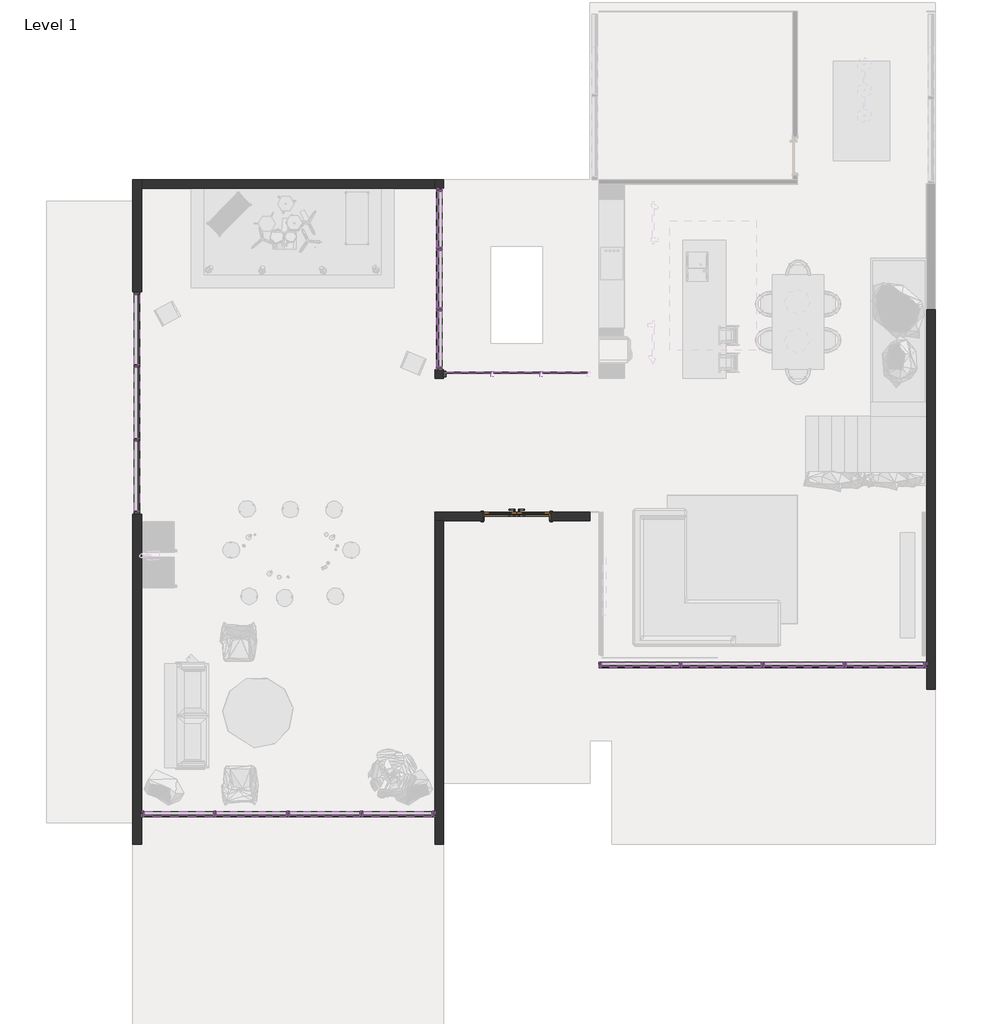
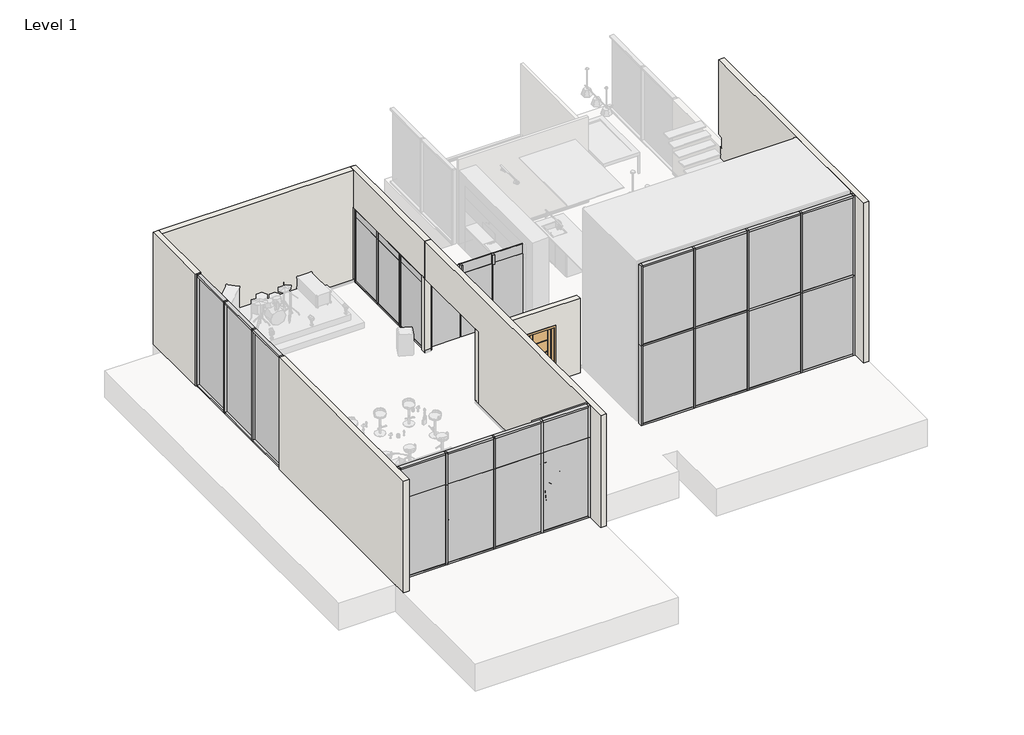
# One storey, part 1 of 6: 67 members, 31 plates, 7 walls, 1 door.
"""IFC4 building model written with IfcOpenShell, lengths in millimetres."""

from ifc_helpers import new_model, si_unit, origin, place, context, project, spatial, faceted_brep, transform, mapped, element, save
from components import door_fa4e7676, rectangular_mullion_rectangular_mullion_1_546e9a78, rectangular_mullion_rectangular_mullion_1_51fb7a7d, rectangular_mullion_rectangular_mullion_1_f7e226ab, rectangular_mullion_rectangular_mullion_1_45eb5bec, rectangular_mullion_rectangular_mullion_1_e13054cf, rectangular_mullion_rectangular_mullion_1_86471573, rectangular_mullion_rectangular_mullion_1_f0fea5a5, rectangular_mullion_rectangular_mullion_1_031d7db2, rectangular_mullion_rectangular_mullion_1_ee409385, rectangular_mullion_rectangular_mullion_1_a164bd95, rectangular_mullion_rectangular_mullion_1_19b272d7, rectangular_mullion_rectangular_mullion_1_7ddebdeb, rectangular_mullion_rectangular_mullion_1_c42b9823, rectangular_mullion_rectangular_mullion_1_b50b5572, rectangular_mullion_rectangular_mullion_1_a9c130e0, rectangular_mullion_rectangular_mullion_1_33fd05ac, rectangular_mullion_rectangular_mullion_1_9cceb9fc, rectangular_mullion_rectangular_mullion_1_63176f19, rectangular_mullion_rectangular_mullion_1_3b2aa3a4, rectangular_mullion_rectangular_mullion_1_f5ac44b7, system_panel_glazed_e4671943, system_panel_glazed_a1a4891f, system_panel_glazed_fd55c559, system_panel_glazed_ea0f2242, system_panel_glazed_6720194d, system_panel_glazed_d0ac25b7, system_panel_glazed_ef327d5a, system_panel_glazed_08af4b28, system_panel_glazed_5775386d, system_panel_glazed_53e30309, system_panel_glazed_298910d5, system_panel_glazed_575d64dd, system_panel_glazed_6db0c983, system_panel_glazed_e00e6230, system_panel_glazed_abf0406e, system_panel_glazed_4120c17d

model = new_model("IFC4")

# Units and contexts
model_context = context("Model", 3, world=origin())
ifc_project = project(units=[si_unit("LENGTHUNIT", "METRE", prefix="MILLI")], contexts=[model_context])

# Site, building, storey
site = spatial("IfcSite", under=ifc_project)
building = spatial("IfcBuilding", under=site)
storey = spatial("IfcBuildingStorey", under=building, Name="Level 1", Elevation=1000.0)

# Door
placement = place(None, origin())
door_shape = door_fa4e7676(model_context)
element("IfcDoor", 1, ObjectType="Door-Exterior-Double-Full Glass-Wood_Clad : 60\" x 80\"", at=placement, inside=storey, context=model_context, shape_type="MappedRepresentation", body=[
    mapped(door_shape, transform((15043.1337784, 5370.0956658, 1000.0), x_axis=(1.0, 0.0, 0.0), y_axis=(0.0, 1.0, 0.0), z_axis=(0.0, 0.0, 1.0))),
])

# Members
rectangular_mullion_rectangular_mullion_1_shape = rectangular_mullion_rectangular_mullion_1_546e9a78(model_context)
element("IfcMember", 2, ObjectType="Rectangular Mullion : Rectangular Mullion 1", at=placement, inside=storey, context=model_context, shape_type="MappedRepresentation", body=[
    mapped(rectangular_mullion_rectangular_mullion_1_shape, transform((18874.8837785, 1927.8321125, 7000.0), x_axis=(0.0, 0.0, 1.0), y_axis=(0.0, 1.0, 0.0), z_axis=(-1.0, 0.0, 0.0))),
])
element("IfcMember", 3, ObjectType="Rectangular Mullion : Rectangular Mullion 1", at=placement, inside=storey, context=model_context, shape_type="MappedRepresentation", body=[
    mapped(rectangular_mullion_rectangular_mullion_1_shape, transform((20774.8837784, 1927.8321125, 7000.0), x_axis=(0.0, 0.0, 1.0), y_axis=(0.0, 1.0, 0.0), z_axis=(-1.0, 0.0, 0.0))),
])
rectangular_mullion_rectangular_mullion_1_2_shape = rectangular_mullion_rectangular_mullion_1_51fb7a7d(model_context)
element("IfcMember", 4, ObjectType="Rectangular Mullion : Rectangular Mullion 1", at=placement, inside=storey, context=model_context, shape_type="MappedRepresentation", body=[
    mapped(rectangular_mullion_rectangular_mullion_1_2_shape, transform((22674.8837782, 1927.8321125, 7000.0), x_axis=(0.0, 0.0, 1.0), y_axis=(0.0, 1.0, 0.0), z_axis=(-1.0, 0.0, 0.0))),
])
element("IfcMember", 5, ObjectType="Rectangular Mullion : Rectangular Mullion 1", at=placement, inside=storey, context=model_context, shape_type="MappedRepresentation", body=[
    mapped(rectangular_mullion_rectangular_mullion_1_2_shape, transform((17006.6337784, 1927.8321125, 7000.0), x_axis=(0.0, 0.0, 1.0), y_axis=(0.0, 1.0, 0.0), z_axis=(-1.0, 0.0, 0.0))),
])
rectangular_mullion_rectangular_mullion_1_3_shape = rectangular_mullion_rectangular_mullion_1_f7e226ab(model_context)
element("IfcMember", 6, ObjectType="Rectangular Mullion : Rectangular Mullion 1", at=placement, inside=storey, context=model_context, shape_type="MappedRepresentation", body=[
    mapped(rectangular_mullion_rectangular_mullion_1_3_shape, transform((18843.1337785, 1927.8321125, 4000.0), x_axis=(-1.0, 0.0, 0.0), y_axis=(0.0, 1.0, 0.0), z_axis=(0.0, 0.0, -1.0))),
])
element("IfcMember", 7, ObjectType="Rectangular Mullion : Rectangular Mullion 1", at=placement, inside=storey, context=model_context, shape_type="MappedRepresentation", body=[
    mapped(rectangular_mullion_rectangular_mullion_1_3_shape, transform((20743.1337784, 1927.8321125, 4000.0), x_axis=(-1.0, 0.0, 0.0), y_axis=(0.0, 1.0, 0.0), z_axis=(0.0, 0.0, -1.0))),
])
element("IfcMember", 8, ObjectType="Rectangular Mullion : Rectangular Mullion 1", at=placement, inside=storey, context=model_context, shape_type="MappedRepresentation", body=[
    mapped(rectangular_mullion_rectangular_mullion_1_3_shape, transform((22643.1337782, 1927.8321125, 4000.0), x_axis=(-1.0, 0.0, 0.0), y_axis=(0.0, 1.0, 0.0), z_axis=(0.0, 0.0, -1.0))),
])
rectangular_mullion_rectangular_mullion_1_4_shape = rectangular_mullion_rectangular_mullion_1_45eb5bec(model_context)
element("IfcMember", 9, ObjectType="Rectangular Mullion : Rectangular Mullion 1", at=placement, inside=storey, context=model_context, shape_type="MappedRepresentation", body=[
    mapped(rectangular_mullion_rectangular_mullion_1_4_shape, transform((17006.6337784, 1927.8321125, 4000.0), x_axis=(0.0, 0.0, 1.0), y_axis=(0.0, 1.0, 0.0), z_axis=(-1.0, 0.0, 0.0))),
])
element("IfcMember", 10, ObjectType="Rectangular Mullion : Rectangular Mullion 1", at=placement, inside=storey, context=model_context, shape_type="MappedRepresentation", body=[
    mapped(rectangular_mullion_rectangular_mullion_1_4_shape, transform((22674.8837782, 1927.8321125, 4000.0), x_axis=(0.0, 0.0, 1.0), y_axis=(0.0, 1.0, 0.0), z_axis=(-1.0, 0.0, 0.0))),
])
rectangular_mullion_rectangular_mullion_1_5_shape = rectangular_mullion_rectangular_mullion_1_e13054cf(model_context)
element("IfcMember", 11, ObjectType="Rectangular Mullion : Rectangular Mullion 1", at=placement, inside=storey, context=model_context, shape_type="MappedRepresentation", body=[
    mapped(rectangular_mullion_rectangular_mullion_1_5_shape, transform((18874.8837785, 1927.8321125, 4000.0), x_axis=(0.0, 0.0, 1.0), y_axis=(0.0, 1.0, 0.0), z_axis=(-1.0, 0.0, 0.0))),
])
element("IfcMember", 12, ObjectType="Rectangular Mullion : Rectangular Mullion 1", at=placement, inside=storey, context=model_context, shape_type="MappedRepresentation", body=[
    mapped(rectangular_mullion_rectangular_mullion_1_5_shape, transform((20774.8837784, 1927.8321125, 4000.0), x_axis=(0.0, 0.0, 1.0), y_axis=(0.0, 1.0, 0.0), z_axis=(-1.0, 0.0, 0.0))),
])
rectangular_mullion_rectangular_mullion_1_6_shape = rectangular_mullion_rectangular_mullion_1_86471573(model_context)
element("IfcMember", 13, ObjectType="Rectangular Mullion : Rectangular Mullion 1", at=placement, inside=storey, context=model_context, shape_type="MappedRepresentation", body=[
    mapped(rectangular_mullion_rectangular_mullion_1_6_shape, transform((24543.1337784, 1927.8321125, 7000.0), x_axis=(1.0, 0.0, 0.0), y_axis=(0.0, 1.0, 0.0), z_axis=(0.0, 0.0, 1.0))),
])
element("IfcMember", 14, ObjectType="Rectangular Mullion : Rectangular Mullion 1", at=placement, inside=storey, context=model_context, shape_type="MappedRepresentation", body=[
    mapped(rectangular_mullion_rectangular_mullion_1_6_shape, transform((16943.1337784, 1927.8321125, 4000.0), x_axis=(-1.0, 0.0, 0.0), y_axis=(0.0, 1.0, 0.0), z_axis=(0.0, 0.0, -1.0))),
])
element("IfcMember", 15, ObjectType="Rectangular Mullion : Rectangular Mullion 1", at=placement, inside=storey, context=model_context, shape_type="MappedRepresentation", body=[
    mapped(rectangular_mullion_rectangular_mullion_1_3_shape, transform((18843.1337785, 1927.8321125, 1000.0), x_axis=(-1.0, 0.0, 0.0), y_axis=(0.0, 1.0, 0.0), z_axis=(0.0, 0.0, -1.0))),
])
element("IfcMember", 16, ObjectType="Rectangular Mullion : Rectangular Mullion 1", at=placement, inside=storey, context=model_context, shape_type="MappedRepresentation", body=[
    mapped(rectangular_mullion_rectangular_mullion_1_3_shape, transform((20743.1337784, 1927.8321125, 1000.0), x_axis=(-1.0, 0.0, 0.0), y_axis=(0.0, 1.0, 0.0), z_axis=(0.0, 0.0, -1.0))),
])
element("IfcMember", 17, ObjectType="Rectangular Mullion : Rectangular Mullion 1", at=placement, inside=storey, context=model_context, shape_type="MappedRepresentation", body=[
    mapped(rectangular_mullion_rectangular_mullion_1_3_shape, transform((22643.1337782, 1927.8321125, 1000.0), x_axis=(-1.0, 0.0, 0.0), y_axis=(0.0, 1.0, 0.0), z_axis=(0.0, 0.0, -1.0))),
])
element("IfcMember", 18, ObjectType="Rectangular Mullion : Rectangular Mullion 1", at=placement, inside=storey, context=model_context, shape_type="MappedRepresentation", body=[
    mapped(rectangular_mullion_rectangular_mullion_1_2_shape, transform((18811.3837785, 1927.8321125, 1000.0), x_axis=(0.0, 0.0, -1.0), y_axis=(0.0, 1.0, 0.0), z_axis=(1.0, 0.0, 0.0))),
])
element("IfcMember", 19, ObjectType="Rectangular Mullion : Rectangular Mullion 1", at=placement, inside=storey, context=model_context, shape_type="MappedRepresentation", body=[
    mapped(rectangular_mullion_rectangular_mullion_1_2_shape, transform((24479.6337784, 1927.8321125, 1000.0), x_axis=(0.0, 0.0, -1.0), y_axis=(0.0, 1.0, 0.0), z_axis=(1.0, 0.0, 0.0))),
])
element("IfcMember", 20, ObjectType="Rectangular Mullion : Rectangular Mullion 1", at=placement, inside=storey, context=model_context, shape_type="MappedRepresentation", body=[
    mapped(rectangular_mullion_rectangular_mullion_1_shape, transform((20711.3837784, 1927.8321125, 1000.0), x_axis=(0.0, 0.0, -1.0), y_axis=(0.0, 1.0, 0.0), z_axis=(1.0, 0.0, 0.0))),
])
element("IfcMember", 21, ObjectType="Rectangular Mullion : Rectangular Mullion 1", at=placement, inside=storey, context=model_context, shape_type="MappedRepresentation", body=[
    mapped(rectangular_mullion_rectangular_mullion_1_shape, transform((22611.3837782, 1927.8321125, 1000.0), x_axis=(0.0, 0.0, -1.0), y_axis=(0.0, 1.0, 0.0), z_axis=(1.0, 0.0, 0.0))),
])
element("IfcMember", 22, ObjectType="Rectangular Mullion : Rectangular Mullion 1", at=placement, inside=storey, context=model_context, shape_type="MappedRepresentation", body=[
    mapped(rectangular_mullion_rectangular_mullion_1_6_shape, transform((24543.1337784, 1927.8321125, 4000.0), x_axis=(1.0, 0.0, 0.0), y_axis=(0.0, 1.0, 0.0), z_axis=(0.0, 0.0, 1.0))),
])
element("IfcMember", 23, ObjectType="Rectangular Mullion : Rectangular Mullion 1", at=placement, inside=storey, context=model_context, shape_type="MappedRepresentation", body=[
    mapped(rectangular_mullion_rectangular_mullion_1_6_shape, transform((16943.1337784, 1927.8321125, 1000.0), x_axis=(-1.0, 0.0, 0.0), y_axis=(0.0, 1.0, 0.0), z_axis=(0.0, 0.0, -1.0))),
])
rectangular_mullion_rectangular_mullion_1_7_shape = rectangular_mullion_rectangular_mullion_1_f0fea5a5(model_context)
element("IfcMember", 24, ObjectType="Rectangular Mullion : Rectangular Mullion 1", at=placement, inside=storey, context=model_context, shape_type="MappedRepresentation", body=[
    mapped(rectangular_mullion_rectangular_mullion_1_7_shape, transform((13242.1337784, 10166.9206659, 1000.0), x_axis=(0.0, 1.0, 0.0), y_axis=(1.0, 0.0, 0.0), z_axis=(0.0, 0.0, -1.0))),
])
element("IfcMember", 25, ObjectType="Rectangular Mullion : Rectangular Mullion 1", at=placement, inside=storey, context=model_context, shape_type="MappedRepresentation", body=[
    mapped(rectangular_mullion_rectangular_mullion_1_7_shape, transform((13242.1337784, 11566.9206657, 1000.0), x_axis=(0.0, 1.0, 0.0), y_axis=(1.0, 0.0, 0.0), z_axis=(0.0, 0.0, -1.0))),
])
rectangular_mullion_rectangular_mullion_1_8_shape = rectangular_mullion_rectangular_mullion_1_031d7db2(model_context)
element("IfcMember", 26, ObjectType="Rectangular Mullion : Rectangular Mullion 1", at=placement, inside=storey, context=model_context, shape_type="MappedRepresentation", body=[
    mapped(rectangular_mullion_rectangular_mullion_1_8_shape, transform((15609.4671116, 8666.9206658, 3438.4), x_axis=(1.0, 0.0, 0.0), y_axis=(0.0, -1.0, 0.0), z_axis=(0.0, 0.0, -1.0))),
])
element("IfcMember", 27, ObjectType="Rectangular Mullion : Rectangular Mullion 1", at=placement, inside=storey, context=model_context, shape_type="MappedRepresentation", body=[
    mapped(rectangular_mullion_rectangular_mullion_1_8_shape, transform((14475.8004451, 8666.9206658, 3438.4), x_axis=(1.0, 0.0, 0.0), y_axis=(0.0, -1.0, 0.0), z_axis=(0.0, 0.0, -1.0))),
])
rectangular_mullion_rectangular_mullion_1_9_shape = rectangular_mullion_rectangular_mullion_1_ee409385(model_context)
element("IfcMember", 28, ObjectType="Rectangular Mullion : Rectangular Mullion 1", at=placement, inside=storey, context=model_context, shape_type="MappedRepresentation", body=[
    mapped(rectangular_mullion_rectangular_mullion_1_9_shape, transform((13242.1337784, 12966.9206658, 1000.0), x_axis=(0.0, 1.0, 0.0), y_axis=(1.0, 0.0, 0.0), z_axis=(0.0, 0.0, -1.0))),
])
element("IfcMember", 29, ObjectType="Rectangular Mullion : Rectangular Mullion 1", at=placement, inside=storey, context=model_context, shape_type="MappedRepresentation", body=[
    mapped(rectangular_mullion_rectangular_mullion_1_9_shape, transform((13342.1337784, 8666.9206658, 3438.4), x_axis=(-1.0, 0.0, 0.0), y_axis=(0.0, -1.0, 0.0), z_axis=(0.0, 0.0, 1.0))),
])
element("IfcMember", 30, ObjectType="Rectangular Mullion : Rectangular Mullion 1", at=placement, inside=storey, context=model_context, shape_type="MappedRepresentation", body=[
    mapped(rectangular_mullion_rectangular_mullion_1_9_shape, transform((13242.1337784, 8766.9206658, 3438.4), x_axis=(0.0, -1.0, 0.0), y_axis=(1.0, 0.0, 0.0), z_axis=(0.0, 0.0, 1.0))),
])
rectangular_mullion_rectangular_mullion_1_10_shape = rectangular_mullion_rectangular_mullion_1_a164bd95(model_context)
element("IfcMember", 31, ObjectType="Rectangular Mullion : Rectangular Mullion 1", at=placement, inside=storey, context=model_context, shape_type="MappedRepresentation", body=[
    mapped(rectangular_mullion_rectangular_mullion_1_10_shape, transform((8011.3837785, -1533.0793342, 1000.0), x_axis=(0.0, 0.0, -1.0), y_axis=(0.0, 1.0, 0.0), z_axis=(1.0, 0.0, 0.0))),
])
element("IfcMember", 32, ObjectType="Rectangular Mullion : Rectangular Mullion 1", at=placement, inside=storey, context=model_context, shape_type="MappedRepresentation", body=[
    mapped(rectangular_mullion_rectangular_mullion_1_10_shape, transform((13079.6337784, -1533.0793342, 1000.0), x_axis=(0.0, 0.0, -1.0), y_axis=(0.0, 1.0, 0.0), z_axis=(1.0, 0.0, 0.0))),
])
rectangular_mullion_rectangular_mullion_1_11_shape = rectangular_mullion_rectangular_mullion_1_19b272d7(model_context)
element("IfcMember", 33, ObjectType="Rectangular Mullion : Rectangular Mullion 1", at=placement, inside=storey, context=model_context, shape_type="MappedRepresentation", body=[
    mapped(rectangular_mullion_rectangular_mullion_1_11_shape, transform((9711.3837784, -1533.0793342, 1000.0), x_axis=(0.0, 0.0, -1.0), y_axis=(0.0, 1.0, 0.0), z_axis=(1.0, 0.0, 0.0))),
])
element("IfcMember", 34, ObjectType="Rectangular Mullion : Rectangular Mullion 1", at=placement, inside=storey, context=model_context, shape_type="MappedRepresentation", body=[
    mapped(rectangular_mullion_rectangular_mullion_1_11_shape, transform((11411.3837782, -1533.0793342, 1000.0), x_axis=(0.0, 0.0, -1.0), y_axis=(0.0, 1.0, 0.0), z_axis=(1.0, 0.0, 0.0))),
])
rectangular_mullion_rectangular_mullion_1_12_shape = rectangular_mullion_rectangular_mullion_1_7ddebdeb(model_context)
element("IfcMember", 35, ObjectType="Rectangular Mullion : Rectangular Mullion 1", at=placement, inside=storey, context=model_context, shape_type="MappedRepresentation", body=[
    mapped(rectangular_mullion_rectangular_mullion_1_12_shape, transform((6243.1337784, 7133.5873326, 1000.0), x_axis=(0.0, -1.0, 0.0), y_axis=(-1.0, 0.0, 0.0), z_axis=(0.0, 0.0, -1.0))),
])
element("IfcMember", 36, ObjectType="Rectangular Mullion : Rectangular Mullion 1", at=placement, inside=storey, context=model_context, shape_type="MappedRepresentation", body=[
    mapped(rectangular_mullion_rectangular_mullion_1_12_shape, transform((6243.1337784, 8850.2539991, 1000.0), x_axis=(0.0, -1.0, 0.0), y_axis=(-1.0, 0.0, 0.0), z_axis=(0.0, 0.0, -1.0))),
])
element("IfcMember", 37, ObjectType="Rectangular Mullion : Rectangular Mullion 1", at=placement, inside=storey, context=model_context, shape_type="MappedRepresentation", body=[
    mapped(rectangular_mullion_rectangular_mullion_1_11_shape, transform((8074.8837785, -1533.0793342, 5200.0), x_axis=(0.0, 0.0, 1.0), y_axis=(0.0, 1.0, 0.0), z_axis=(-1.0, 0.0, 0.0))),
])
element("IfcMember", 38, ObjectType="Rectangular Mullion : Rectangular Mullion 1", at=placement, inside=storey, context=model_context, shape_type="MappedRepresentation", body=[
    mapped(rectangular_mullion_rectangular_mullion_1_11_shape, transform((9774.8837784, -1533.0793342, 5200.0), x_axis=(0.0, 0.0, 1.0), y_axis=(0.0, 1.0, 0.0), z_axis=(-1.0, 0.0, 0.0))),
])
element("IfcMember", 39, ObjectType="Rectangular Mullion : Rectangular Mullion 1", at=placement, inside=storey, context=model_context, shape_type="MappedRepresentation", body=[
    mapped(rectangular_mullion_rectangular_mullion_1_10_shape, transform((11474.8837782, -1533.0793342, 5200.0), x_axis=(0.0, 0.0, 1.0), y_axis=(0.0, 1.0, 0.0), z_axis=(-1.0, 0.0, 0.0))),
])
element("IfcMember", 40, ObjectType="Rectangular Mullion : Rectangular Mullion 1", at=placement, inside=storey, context=model_context, shape_type="MappedRepresentation", body=[
    mapped(rectangular_mullion_rectangular_mullion_1_10_shape, transform((6406.6337784, -1533.0793342, 5200.0), x_axis=(0.0, 0.0, 1.0), y_axis=(0.0, 1.0, 0.0), z_axis=(-1.0, 0.0, 0.0))),
])
rectangular_mullion_rectangular_mullion_1_13_shape = rectangular_mullion_rectangular_mullion_1_c42b9823(model_context)
element("IfcMember", 41, ObjectType="Rectangular Mullion : Rectangular Mullion 1", at=placement, inside=storey, context=model_context, shape_type="MappedRepresentation", body=[
    mapped(rectangular_mullion_rectangular_mullion_1_13_shape, transform((6243.1337784, 5416.9206658, 1000.0), x_axis=(0.0, -1.0, 0.0), y_axis=(-1.0, 0.0, 0.0), z_axis=(0.0, 0.0, -1.0))),
])
element("IfcMember", 42, ObjectType="Rectangular Mullion : Rectangular Mullion 1", at=placement, inside=storey, context=model_context, shape_type="MappedRepresentation", body=[
    mapped(rectangular_mullion_rectangular_mullion_1_13_shape, transform((6243.1337784, 10566.9206658, 5200.0), x_axis=(0.0, 1.0, 0.0), y_axis=(-1.0, 0.0, 0.0), z_axis=(0.0, 0.0, 1.0))),
])
rectangular_mullion_rectangular_mullion_1_14_shape = rectangular_mullion_rectangular_mullion_1_b50b5572(model_context)
element("IfcMember", 43, ObjectType="Rectangular Mullion : Rectangular Mullion 1", at=placement, inside=storey, context=model_context, shape_type="MappedRepresentation", body=[
    mapped(rectangular_mullion_rectangular_mullion_1_14_shape, transform((6243.1337784, 7165.3373326, 5200.0), x_axis=(0.0, 0.0, 1.0), y_axis=(-1.0, 0.0, 0.0), z_axis=(0.0, -1.0, 0.0))),
])
rectangular_mullion_rectangular_mullion_1_15_shape = rectangular_mullion_rectangular_mullion_1_a9c130e0(model_context)
element("IfcMember", 44, ObjectType="Rectangular Mullion : Rectangular Mullion 1", at=placement, inside=storey, context=model_context, shape_type="MappedRepresentation", body=[
    mapped(rectangular_mullion_rectangular_mullion_1_15_shape, transform((6243.1337784, 8882.0039991, 5200.0), x_axis=(0.0, 0.0, 1.0), y_axis=(-1.0, 0.0, 0.0), z_axis=(0.0, -1.0, 0.0))),
])
element("IfcMember", 45, ObjectType="Rectangular Mullion : Rectangular Mullion 1", at=placement, inside=storey, context=model_context, shape_type="MappedRepresentation", body=[
    mapped(rectangular_mullion_rectangular_mullion_1_15_shape, transform((6243.1337784, 5480.4206658, 5200.0), x_axis=(0.0, 0.0, 1.0), y_axis=(-1.0, 0.0, 0.0), z_axis=(0.0, -1.0, 0.0))),
])
element("IfcMember", 46, ObjectType="Rectangular Mullion : Rectangular Mullion 1", at=placement, inside=storey, context=model_context, shape_type="MappedRepresentation", body=[
    mapped(rectangular_mullion_rectangular_mullion_1_15_shape, transform((6243.1337784, 7101.8373326, 1000.0), x_axis=(0.0, 0.0, -1.0), y_axis=(-1.0, 0.0, 0.0), z_axis=(0.0, 1.0, 0.0))),
])
element("IfcMember", 47, ObjectType="Rectangular Mullion : Rectangular Mullion 1", at=placement, inside=storey, context=model_context, shape_type="MappedRepresentation", body=[
    mapped(rectangular_mullion_rectangular_mullion_1_15_shape, transform((6243.1337784, 10503.4206658, 1000.0), x_axis=(0.0, 0.0, -1.0), y_axis=(-1.0, 0.0, 0.0), z_axis=(0.0, 1.0, 0.0))),
])
element("IfcMember", 48, ObjectType="Rectangular Mullion : Rectangular Mullion 1", at=placement, inside=storey, context=model_context, shape_type="MappedRepresentation", body=[
    mapped(rectangular_mullion_rectangular_mullion_1_14_shape, transform((6243.1337784, 8818.5039991, 1000.0), x_axis=(0.0, 0.0, -1.0), y_axis=(-1.0, 0.0, 0.0), z_axis=(0.0, 1.0, 0.0))),
])
element("IfcMember", 49, ObjectType="Rectangular Mullion : Rectangular Mullion 1", at=placement, inside=storey, context=model_context, shape_type="MappedRepresentation", body=[
    mapped(rectangular_mullion_rectangular_mullion_1_3_shape, transform((11443.1337782, -1533.0793342, 1000.0), x_axis=(-1.0, 0.0, 0.0), y_axis=(0.0, 1.0, 0.0), z_axis=(0.0, 0.0, -1.0))),
])
element("IfcMember", 50, ObjectType="Rectangular Mullion : Rectangular Mullion 1", at=placement, inside=storey, context=model_context, shape_type="MappedRepresentation", body=[
    mapped(rectangular_mullion_rectangular_mullion_1_3_shape, transform((8043.1337785, -1533.0793342, 1000.0), x_axis=(-1.0, 0.0, 0.0), y_axis=(0.0, 1.0, 0.0), z_axis=(0.0, 0.0, -1.0))),
])
element("IfcMember", 51, ObjectType="Rectangular Mullion : Rectangular Mullion 1", at=placement, inside=storey, context=model_context, shape_type="MappedRepresentation", body=[
    mapped(rectangular_mullion_rectangular_mullion_1_3_shape, transform((9743.1337784, -1533.0793342, 1000.0), x_axis=(-1.0, 0.0, 0.0), y_axis=(0.0, 1.0, 0.0), z_axis=(0.0, 0.0, -1.0))),
])
rectangular_mullion_rectangular_mullion_1_16_shape = rectangular_mullion_rectangular_mullion_1_33fd05ac(model_context)
element("IfcMember", 52, ObjectType="Rectangular Mullion : Rectangular Mullion 1", at=placement, inside=storey, context=model_context, shape_type="MappedRepresentation", body=[
    mapped(rectangular_mullion_rectangular_mullion_1_16_shape, transform((11443.1337782, -1533.0793342, 4000.0), x_axis=(-1.0, 0.0, 0.0), y_axis=(0.0, 1.0, 0.0), z_axis=(0.0, 0.0, -1.0))),
])
element("IfcMember", 53, ObjectType="Rectangular Mullion : Rectangular Mullion 1", at=placement, inside=storey, context=model_context, shape_type="MappedRepresentation", body=[
    mapped(rectangular_mullion_rectangular_mullion_1_16_shape, transform((8043.1337785, -1533.0793342, 4000.0), x_axis=(-1.0, 0.0, 0.0), y_axis=(0.0, 1.0, 0.0), z_axis=(0.0, 0.0, -1.0))),
])
element("IfcMember", 54, ObjectType="Rectangular Mullion : Rectangular Mullion 1", at=placement, inside=storey, context=model_context, shape_type="MappedRepresentation", body=[
    mapped(rectangular_mullion_rectangular_mullion_1_16_shape, transform((9743.1337784, -1533.0793342, 4000.0), x_axis=(-1.0, 0.0, 0.0), y_axis=(0.0, 1.0, 0.0), z_axis=(0.0, 0.0, -1.0))),
])
element("IfcMember", 55, ObjectType="Rectangular Mullion : Rectangular Mullion 1", at=placement, inside=storey, context=model_context, shape_type="MappedRepresentation", body=[
    mapped(rectangular_mullion_rectangular_mullion_1_6_shape, transform((6343.1337784, -1533.0793342, 1000.0), x_axis=(-1.0, 0.0, 0.0), y_axis=(0.0, 1.0, 0.0), z_axis=(0.0, 0.0, -1.0))),
])
rectangular_mullion_rectangular_mullion_1_17_shape = rectangular_mullion_rectangular_mullion_1_9cceb9fc(model_context)
element("IfcMember", 56, ObjectType="Rectangular Mullion : Rectangular Mullion 1", at=placement, inside=storey, context=model_context, shape_type="MappedRepresentation", body=[
    mapped(rectangular_mullion_rectangular_mullion_1_17_shape, transform((13143.1337784, -1533.0793342, 5200.0), x_axis=(1.0, 0.0, 0.0), y_axis=(0.0, 1.0, 0.0), z_axis=(0.0, 0.0, 1.0))),
])
element("IfcMember", 57, ObjectType="Rectangular Mullion : Rectangular Mullion 1", at=placement, inside=storey, context=model_context, shape_type="MappedRepresentation", body=[
    mapped(rectangular_mullion_rectangular_mullion_1_17_shape, transform((6343.1337784, -1533.0793342, 4000.0), x_axis=(-1.0, 0.0, 0.0), y_axis=(0.0, 1.0, 0.0), z_axis=(0.0, 0.0, -1.0))),
])
element("IfcMember", 58, ObjectType="Rectangular Mullion : Rectangular Mullion 1", at=placement, inside=storey, context=model_context, shape_type="MappedRepresentation", body=[
    mapped(rectangular_mullion_rectangular_mullion_1_6_shape, transform((13143.1337784, -1533.0793342, 4000.0), x_axis=(1.0, 0.0, 0.0), y_axis=(0.0, 1.0, 0.0), z_axis=(0.0, 0.0, 1.0))),
])
rectangular_mullion_rectangular_mullion_1_18_shape = rectangular_mullion_rectangular_mullion_1_63176f19(model_context)
element("IfcMember", 59, ObjectType="Rectangular Mullion : Rectangular Mullion 1", at=placement, inside=storey, context=model_context, shape_type="MappedRepresentation", body=[
    mapped(rectangular_mullion_rectangular_mullion_1_18_shape, transform((13242.1337784, 11598.6706657, 1000.0), x_axis=(0.0, 0.0, -1.0), y_axis=(1.0, 0.0, 0.0), z_axis=(0.0, -1.0, 0.0))),
])
element("IfcMember", 60, ObjectType="Rectangular Mullion : Rectangular Mullion 1", at=placement, inside=storey, context=model_context, shape_type="MappedRepresentation", body=[
    mapped(rectangular_mullion_rectangular_mullion_1_18_shape, transform((13242.1337784, 8830.4206658, 1000.0), x_axis=(0.0, 0.0, -1.0), y_axis=(1.0, 0.0, 0.0), z_axis=(0.0, -1.0, 0.0))),
])
rectangular_mullion_rectangular_mullion_1_19_shape = rectangular_mullion_rectangular_mullion_1_3b2aa3a4(model_context)
element("IfcMember", 61, ObjectType="Rectangular Mullion : Rectangular Mullion 1", at=placement, inside=storey, context=model_context, shape_type="MappedRepresentation", body=[
    mapped(rectangular_mullion_rectangular_mullion_1_19_shape, transform((13242.1337784, 10198.6706659, 1000.0), x_axis=(0.0, 0.0, -1.0), y_axis=(1.0, 0.0, 0.0), z_axis=(0.0, -1.0, 0.0))),
])
element("IfcMember", 62, ObjectType="Rectangular Mullion : Rectangular Mullion 1", at=placement, inside=storey, context=model_context, shape_type="MappedRepresentation", body=[
    mapped(rectangular_mullion_rectangular_mullion_1_19_shape, transform((13242.1337784, 11535.1706657, 3800.0), x_axis=(0.0, 0.0, 1.0), y_axis=(1.0, 0.0, 0.0), z_axis=(0.0, 1.0, 0.0))),
])
element("IfcMember", 63, ObjectType="Rectangular Mullion : Rectangular Mullion 1", at=placement, inside=storey, context=model_context, shape_type="MappedRepresentation", body=[
    mapped(rectangular_mullion_rectangular_mullion_1_18_shape, transform((13242.1337784, 10135.1706659, 3800.0), x_axis=(0.0, 0.0, 1.0), y_axis=(1.0, 0.0, 0.0), z_axis=(0.0, 1.0, 0.0))),
])
element("IfcMember", 64, ObjectType="Rectangular Mullion : Rectangular Mullion 1", at=placement, inside=storey, context=model_context, shape_type="MappedRepresentation", body=[
    mapped(rectangular_mullion_rectangular_mullion_1_18_shape, transform((13242.1337784, 12903.4206658, 3800.0), x_axis=(0.0, 0.0, 1.0), y_axis=(1.0, 0.0, 0.0), z_axis=(0.0, 1.0, 0.0))),
])
element("IfcMember", 65, ObjectType="Rectangular Mullion : Rectangular Mullion 1", at=placement, inside=storey, context=model_context, shape_type="MappedRepresentation", body=[
    mapped(rectangular_mullion_rectangular_mullion_1_8_shape, transform((13242.1337784, 10166.9206659, 3438.4), x_axis=(0.0, 1.0, 0.0), y_axis=(1.0, 0.0, 0.0), z_axis=(0.0, 0.0, -1.0))),
])
element("IfcMember", 66, ObjectType="Rectangular Mullion : Rectangular Mullion 1", at=placement, inside=storey, context=model_context, shape_type="MappedRepresentation", body=[
    mapped(rectangular_mullion_rectangular_mullion_1_8_shape, transform((13242.1337784, 11566.9206657, 3438.4), x_axis=(0.0, 1.0, 0.0), y_axis=(1.0, 0.0, 0.0), z_axis=(0.0, 0.0, -1.0))),
])
rectangular_mullion_rectangular_mullion_1_20_shape = rectangular_mullion_rectangular_mullion_1_f5ac44b7(model_context)
element("IfcMember", 67, ObjectType="Rectangular Mullion : Rectangular Mullion 1", at=placement, inside=storey, context=model_context, shape_type="MappedRepresentation", body=[
    mapped(rectangular_mullion_rectangular_mullion_1_20_shape, transform((13242.1337784, 8766.9206658, 3800.0), x_axis=(0.0, -1.0, 0.0), y_axis=(1.0, 0.0, 0.0), z_axis=(0.0, 0.0, 1.0))),
])
element("IfcMember", 68, ObjectType="Rectangular Mullion : Rectangular Mullion 1", at=placement, inside=storey, context=model_context, shape_type="MappedRepresentation", body=[
    mapped(rectangular_mullion_rectangular_mullion_1_20_shape, transform((13242.1337784, 12966.9206658, 3438.4), x_axis=(0.0, 1.0, 0.0), y_axis=(1.0, 0.0, 0.0), z_axis=(0.0, 0.0, -1.0))),
])

# Plates
system_panel_glazed_shape = system_panel_glazed_e4671943(model_context)
element("IfcPlate", 69, ObjectType="System Panel : Glazed", at=placement, inside=storey, context=model_context, shape_type="MappedRepresentation", body=[
    mapped(system_panel_glazed_shape, transform((23577.2587783, 1927.8321125, 1063.5), x_axis=(-1.0, 0.0, 0.0), y_axis=(0.0, -1.0, 0.0), z_axis=(0.0, 0.0, 1.0))),
])
element("IfcPlate", 70, ObjectType="System Panel : Glazed", at=placement, inside=storey, context=model_context, shape_type="MappedRepresentation", body=[
    mapped(system_panel_glazed_shape, transform((17909.0087784, 1927.8321125, 1063.5), x_axis=(-1.0, 0.0, 0.0), y_axis=(0.0, -1.0, 0.0), z_axis=(0.0, 0.0, 1.0))),
])
element("IfcPlate", 71, ObjectType="System Panel : Glazed", at=placement, inside=storey, context=model_context, shape_type="MappedRepresentation", body=[
    mapped(system_panel_glazed_shape, transform((23577.2587783, 1927.8321125, 4031.75), x_axis=(-1.0, 0.0, 0.0), y_axis=(0.0, -1.0, 0.0), z_axis=(0.0, 0.0, 1.0))),
])
element("IfcPlate", 72, ObjectType="System Panel : Glazed", at=placement, inside=storey, context=model_context, shape_type="MappedRepresentation", body=[
    mapped(system_panel_glazed_shape, transform((17909.0087784, 1927.8321125, 4031.75), x_axis=(-1.0, 0.0, 0.0), y_axis=(0.0, -1.0, 0.0), z_axis=(0.0, 0.0, 1.0))),
])
system_panel_glazed_2_shape = system_panel_glazed_a1a4891f(model_context)
element("IfcPlate", 73, ObjectType="System Panel : Glazed", at=placement, inside=storey, context=model_context, shape_type="MappedRepresentation", body=[
    mapped(system_panel_glazed_2_shape, transform((21693.1337783, 1927.8321125, 1063.5), x_axis=(-1.0, 0.0, 0.0), y_axis=(0.0, -1.0, 0.0), z_axis=(0.0, 0.0, 1.0))),
])
element("IfcPlate", 74, ObjectType="System Panel : Glazed", at=placement, inside=storey, context=model_context, shape_type="MappedRepresentation", body=[
    mapped(system_panel_glazed_2_shape, transform((19793.1337784, 1927.8321125, 1063.5), x_axis=(-1.0, 0.0, 0.0), y_axis=(0.0, -1.0, 0.0), z_axis=(0.0, 0.0, 1.0))),
])
element("IfcPlate", 75, ObjectType="System Panel : Glazed", at=placement, inside=storey, context=model_context, shape_type="MappedRepresentation", body=[
    mapped(system_panel_glazed_2_shape, transform((21693.1337783, 1927.8321125, 4031.75), x_axis=(-1.0, 0.0, 0.0), y_axis=(0.0, -1.0, 0.0), z_axis=(0.0, 0.0, 1.0))),
])
element("IfcPlate", 76, ObjectType="System Panel : Glazed", at=placement, inside=storey, context=model_context, shape_type="MappedRepresentation", body=[
    mapped(system_panel_glazed_2_shape, transform((19793.1337784, 1927.8321125, 4031.75), x_axis=(-1.0, 0.0, 0.0), y_axis=(0.0, -1.0, 0.0), z_axis=(0.0, 0.0, 1.0))),
])
system_panel_glazed_3_shape = system_panel_glazed_fd55c559(model_context)
element("IfcPlate", 77, ObjectType="System Panel : Glazed", at=placement, inside=storey, context=model_context, shape_type="MappedRepresentation", body=[
    mapped(system_panel_glazed_3_shape, transform((6243.1337784, 9692.7123325, 1063.5), x_axis=(0.0, -1.0, 0.0), y_axis=(1.0, 0.0, 0.0), z_axis=(0.0, 0.0, 1.0))),
])
element("IfcPlate", 78, ObjectType="System Panel : Glazed", at=placement, inside=storey, context=model_context, shape_type="MappedRepresentation", body=[
    mapped(system_panel_glazed_3_shape, transform((6243.1337784, 6291.1289992, 1063.5), x_axis=(0.0, -1.0, 0.0), y_axis=(1.0, 0.0, 0.0), z_axis=(0.0, 0.0, 1.0))),
])
system_panel_glazed_4_shape = system_panel_glazed_ea0f2242(model_context)
element("IfcPlate", 79, ObjectType="System Panel : Glazed", at=placement, inside=storey, context=model_context, shape_type="MappedRepresentation", body=[
    mapped(system_panel_glazed_4_shape, transform((6243.1337784, 7991.9206658, 1063.5), x_axis=(0.0, -1.0, 0.0), y_axis=(1.0, 0.0, 0.0), z_axis=(0.0, 0.0, 1.0))),
])
system_panel_glazed_5_shape = system_panel_glazed_6720194d(model_context)
element("IfcPlate", 80, ObjectType="System Panel : Glazed", at=placement, inside=storey, context=model_context, shape_type="MappedRepresentation", body=[
    mapped(system_panel_glazed_5_shape, transform((10593.1337783, -1533.0793342, 1063.5), x_axis=(-1.0, 0.0, 0.0), y_axis=(0.0, -1.0, 0.0), z_axis=(0.0, 0.0, 1.0))),
])
element("IfcPlate", 81, ObjectType="System Panel : Glazed", at=placement, inside=storey, context=model_context, shape_type="MappedRepresentation", body=[
    mapped(system_panel_glazed_5_shape, transform((8893.1337784, -1533.0793342, 1063.5), x_axis=(-1.0, 0.0, 0.0), y_axis=(0.0, -1.0, 0.0), z_axis=(0.0, 0.0, 1.0))),
])
system_panel_glazed_6_shape = system_panel_glazed_d0ac25b7(model_context)
element("IfcPlate", 82, ObjectType="System Panel : Glazed", at=placement, inside=storey, context=model_context, shape_type="MappedRepresentation", body=[
    mapped(system_panel_glazed_6_shape, transform((12277.2587783, -1533.0793342, 1063.5), x_axis=(-1.0, 0.0, 0.0), y_axis=(0.0, -1.0, 0.0), z_axis=(0.0, 0.0, 1.0))),
])
element("IfcPlate", 83, ObjectType="System Panel : Glazed", at=placement, inside=storey, context=model_context, shape_type="MappedRepresentation", body=[
    mapped(system_panel_glazed_6_shape, transform((7209.0087784, -1533.0793342, 1063.5), x_axis=(-1.0, 0.0, 0.0), y_axis=(0.0, -1.0, 0.0), z_axis=(0.0, 0.0, 1.0))),
])
system_panel_glazed_7_shape = system_panel_glazed_ef327d5a(model_context)
element("IfcPlate", 84, ObjectType="System Panel : Glazed", at=placement, inside=storey, context=model_context, shape_type="MappedRepresentation", body=[
    mapped(system_panel_glazed_7_shape, transform((10593.1337783, -1533.0793342, 4000.0), x_axis=(-1.0, 0.0, 0.0), y_axis=(0.0, -1.0, 0.0), z_axis=(0.0, 0.0, 1.0))),
])
element("IfcPlate", 85, ObjectType="System Panel : Glazed", at=placement, inside=storey, context=model_context, shape_type="MappedRepresentation", body=[
    mapped(system_panel_glazed_7_shape, transform((8893.1337784, -1533.0793342, 4000.0), x_axis=(-1.0, 0.0, 0.0), y_axis=(0.0, -1.0, 0.0), z_axis=(0.0, 0.0, 1.0))),
])
system_panel_glazed_8_shape = system_panel_glazed_08af4b28(model_context)
element("IfcPlate", 86, ObjectType="System Panel : Glazed", at=placement, inside=storey, context=model_context, shape_type="MappedRepresentation", body=[
    mapped(system_panel_glazed_8_shape, transform((12277.2587783, -1533.0793342, 4000.0), x_axis=(-1.0, 0.0, 0.0), y_axis=(0.0, -1.0, 0.0), z_axis=(0.0, 0.0, 1.0))),
])
element("IfcPlate", 87, ObjectType="System Panel : Glazed", at=placement, inside=storey, context=model_context, shape_type="MappedRepresentation", body=[
    mapped(system_panel_glazed_8_shape, transform((7209.0087784, -1533.0793342, 4000.0), x_axis=(-1.0, 0.0, 0.0), y_axis=(0.0, -1.0, 0.0), z_axis=(0.0, 0.0, 1.0))),
])
system_panel_glazed_9_shape = system_panel_glazed_5775386d(model_context)
element("IfcPlate", 88, ObjectType="System Panel : Glazed", at=placement, inside=storey, context=model_context, shape_type="MappedRepresentation", body=[
    mapped(system_panel_glazed_9_shape, transform((13924.8421118, 8666.9206658, 1063.5), x_axis=(1.0, 0.0, 0.0), y_axis=(0.0, 1.0, 0.0), z_axis=(0.0, 0.0, 1.0))),
])
element("IfcPlate", 89, ObjectType="System Panel : Glazed", at=placement, inside=storey, context=model_context, shape_type="MappedRepresentation", body=[
    mapped(system_panel_glazed_9_shape, transform((16160.425445, 8666.9206658, 1063.5), x_axis=(1.0, 0.0, 0.0), y_axis=(0.0, 1.0, 0.0), z_axis=(0.0, 0.0, 1.0))),
])
system_panel_glazed_10_shape = system_panel_glazed_53e30309(model_context)
element("IfcPlate", 90, ObjectType="System Panel : Glazed", at=placement, inside=storey, context=model_context, shape_type="MappedRepresentation", body=[
    mapped(system_panel_glazed_10_shape, transform((15042.6337784, 8666.9206658, 1063.5), x_axis=(1.0, 0.0, 0.0), y_axis=(0.0, 1.0, 0.0), z_axis=(0.0, 0.0, 1.0))),
])
system_panel_glazed_11_shape = system_panel_glazed_298910d5(model_context)
element("IfcPlate", 91, ObjectType="System Panel : Glazed", at=placement, inside=storey, context=model_context, shape_type="MappedRepresentation", body=[
    mapped(system_panel_glazed_11_shape, transform((13924.8421118, 8666.9206658, 3438.4), x_axis=(1.0, 0.0, 0.0), y_axis=(0.0, 1.0, 0.0), z_axis=(0.0, 0.0, 1.0))),
])
element("IfcPlate", 92, ObjectType="System Panel : Glazed", at=placement, inside=storey, context=model_context, shape_type="MappedRepresentation", body=[
    mapped(system_panel_glazed_11_shape, transform((16160.425445, 8666.9206658, 3438.4), x_axis=(1.0, 0.0, 0.0), y_axis=(0.0, 1.0, 0.0), z_axis=(0.0, 0.0, 1.0))),
])
system_panel_glazed_12_shape = system_panel_glazed_575d64dd(model_context)
element("IfcPlate", 93, ObjectType="System Panel : Glazed", at=placement, inside=storey, context=model_context, shape_type="MappedRepresentation", body=[
    mapped(system_panel_glazed_12_shape, transform((15042.6337784, 8666.9206658, 3438.4), x_axis=(1.0, 0.0, 0.0), y_axis=(0.0, 1.0, 0.0), z_axis=(0.0, 0.0, 1.0))),
])
system_panel_glazed_13_shape = system_panel_glazed_6db0c983(model_context)
element("IfcPlate", 94, ObjectType="System Panel : Glazed", at=placement, inside=storey, context=model_context, shape_type="MappedRepresentation", body=[
    mapped(system_panel_glazed_13_shape, transform((13242.1337784, 10866.9206658, 1063.5), x_axis=(0.0, 1.0, 0.0), y_axis=(-1.0, 0.0, 0.0), z_axis=(0.0, 0.0, 1.0))),
])
system_panel_glazed_14_shape = system_panel_glazed_e00e6230(model_context)
element("IfcPlate", 95, ObjectType="System Panel : Glazed", at=placement, inside=storey, context=model_context, shape_type="MappedRepresentation", body=[
    mapped(system_panel_glazed_14_shape, transform((13242.1337784, 9482.7956659, 1063.5), x_axis=(0.0, 1.0, 0.0), y_axis=(-1.0, 0.0, 0.0), z_axis=(0.0, 0.0, 1.0))),
])
element("IfcPlate", 96, ObjectType="System Panel : Glazed", at=placement, inside=storey, context=model_context, shape_type="MappedRepresentation", body=[
    mapped(system_panel_glazed_14_shape, transform((13242.1337784, 12251.0456658, 1063.5), x_axis=(0.0, 1.0, 0.0), y_axis=(-1.0, 0.0, 0.0), z_axis=(0.0, 0.0, 1.0))),
])
system_panel_glazed_15_shape = system_panel_glazed_abf0406e(model_context)
element("IfcPlate", 97, ObjectType="System Panel : Glazed", at=placement, inside=storey, context=model_context, shape_type="MappedRepresentation", body=[
    mapped(system_panel_glazed_15_shape, transform((13242.1337784, 10866.9206658, 3438.4), x_axis=(0.0, 1.0, 0.0), y_axis=(-1.0, 0.0, 0.0), z_axis=(0.0, 0.0, 1.0))),
])
system_panel_glazed_16_shape = system_panel_glazed_4120c17d(model_context)
element("IfcPlate", 98, ObjectType="System Panel : Glazed", at=placement, inside=storey, context=model_context, shape_type="MappedRepresentation", body=[
    mapped(system_panel_glazed_16_shape, transform((13242.1337784, 9482.7956659, 3438.4), x_axis=(0.0, 1.0, 0.0), y_axis=(-1.0, 0.0, 0.0), z_axis=(0.0, 0.0, 1.0))),
])
element("IfcPlate", 99, ObjectType="System Panel : Glazed", at=placement, inside=storey, context=model_context, shape_type="MappedRepresentation", body=[
    mapped(system_panel_glazed_16_shape, transform((13242.1337784, 12251.0456658, 3438.4), x_axis=(0.0, 1.0, 0.0), y_axis=(-1.0, 0.0, 0.0), z_axis=(0.0, 0.0, 1.0))),
])

# Walls
element("IfcWall", 100, ObjectType="Generic - 8\"", at=placement, inside=storey, context=model_context, shape_type="Brep", body=[
    faceted_brep([(24743.1337784, 1366.9206658, 1000.0), (24743.1337784, 10154.720421, 1000.0), (24743.1337784, 10154.720421, 3800.0), (24743.1337784, 10054.720421, 3800.0), (24743.1337784, 10054.720421, 4200.0), (24743.1337784, 10254.720421, 4200.0), (24743.1337784, 10254.720421, 7000.0), (24743.1337784, 10054.720421, 7000.0), (24743.1337784, 1366.9206658, 7000.0), (24543.1337784, 10054.720421, 4200.0), (24543.1337784, 10054.720421, 3800.0), (24543.1337784, 10154.720421, 3800.0), (24543.1337784, 10154.720421, 1100.0), (24543.1337784, 10154.720421, 1000.0), (24543.1337784, 1991.3321125, 1000.0), (24543.1337784, 1366.9206658, 1000.0), (24543.1337784, 1366.9206658, 7000.0), (24543.1337784, 10254.720421, 7000.0), (24543.1337784, 10254.720421, 4200.0), (24643.1337784, 10254.720421, 4200.0), (24643.1337784, 10254.720421, 7000.0)], [[[0, 1, 2, 3, 4, 5, 6, 7, 8]], [[9, 10, 11, 12, 13, 14, 15, 16, 17, 18]], [[1, 0, 15, 14, 13]], [[15, 0, 8, 16]], [[1, 13, 12, 11, 2]], [[18, 19, 5, 4, 9]], [[5, 19, 18, 17, 20, 6]], [[10, 3, 2, 11]], [[9, 4, 3, 10]], [[7, 6, 20, 17, 16, 8]]]),
])
element("IfcWall", 101, ObjectType="Generic - 8\"", at=placement, inside=storey, context=model_context, shape_type="Brep", body=[
    faceted_brep([(13342.1337784, 8766.9206658, 3800.0), (13342.1337784, 8766.9206658, 1000.0), (13142.1337784, 8766.9206658, 1000.0), (13142.1337784, 8766.9206658, 3800.0), (13142.1337784, 8566.9206658, 1000.0), (13342.1337784, 8566.9206658, 1000.0), (13342.1337784, 8566.9206658, 1100.0), (13342.1337784, 8566.9206658, 3800.0), (13142.1337784, 8566.9206658, 3800.0), (13142.1337784, 8566.9206658, 1100.0)], [[[0, 1, 2, 3]], [[4, 5, 6, 7, 8, 9]], [[1, 5, 4, 2]], [[1, 0, 7, 6, 5]], [[3, 8, 7, 0]], [[3, 2, 4, 9, 8]]]),
])
element("IfcWall", 102, ObjectType="Generic - 8\"", at=placement, inside=storey, context=model_context, shape_type="Brep", body=[
    faceted_brep([(6143.1337784, -2233.0793342, 1000.0), (6143.1337784, -2233.0793342, 5200.0), (6143.1337784, 5416.9206658, 5200.0), (6143.1337784, 5416.9206658, 1000.0), (6343.1337784, -2233.0793342, 5200.0), (6343.1337784, -2233.0793342, 1000.0), (6343.1337784, -1469.5793342, 1000.0), (6343.1337784, 5416.9206658, 1000.0), (6343.1337784, 5416.9206658, 1100.0), (6343.1337784, 5416.9206658, 5200.0)], [[[0, 1, 2, 3]], [[4, 5, 6, 7, 8, 9]], [[5, 0, 3, 7, 6]], [[1, 0, 5, 4]], [[1, 4, 9, 2]], [[3, 2, 9, 8, 7]]]),
    faceted_brep([(6143.1337784, 13166.9206658, 1000.0), (6143.1337784, 10566.9206658, 1000.0), (6143.1337784, 10566.9206658, 5200.0), (6143.1337784, 13166.9206658, 5200.0), (6343.1337784, 13166.9206658, 5200.0), (6343.1337784, 12966.9206658, 5200.0), (6343.1337784, 10566.9206658, 5200.0), (6343.1337784, 10566.9206658, 1100.0), (6343.1337784, 10566.9206658, 1000.0), (6343.1337784, 12966.9206658, 1000.0), (6343.1337784, 13166.9206658, 1000.0)], [[[0, 1, 2, 3]], [[4, 5, 6, 7, 8, 9, 10]], [[1, 0, 10, 9, 8]], [[3, 2, 6, 5, 4]], [[2, 1, 8, 7, 6]], [[0, 3, 4, 10]]]),
])
element("IfcWall", 103, ObjectType="Generic - 8\"", at=placement, inside=storey, context=model_context, shape_type="Brep", body=[
    faceted_brep([(15830.5337784, 5266.9206658, 1000.0), (16743.1337784, 5266.9206658, 1000.0), (16743.1337784, 5266.9206658, 3800.0), (13343.1337784, 5266.9206658, 3800.0), (13143.1337784, 5266.9206658, 3800.0), (13143.1337784, 5266.9206658, 1100.0), (13143.1337784, 5266.9206658, 1000.0), (13343.1337784, 5266.9206658, 1000.0), (14255.7337784, 5266.9206658, 1000.0), (14255.7337784, 5266.9206658, 3057.4), (15830.5337784, 5266.9206658, 3057.4), (16743.1337784, 5466.9206658, 1000.0), (15830.5337784, 5466.9206658, 1000.0), (15830.5337784, 5466.9206658, 1100.0), (15830.5337784, 5466.9206658, 3057.4), (14255.7337784, 5466.9206658, 3057.4), (14255.7337784, 5466.9206658, 1100.0), (14255.7337784, 5466.9206658, 1000.0), (13143.1337784, 5466.9206658, 1000.0), (13143.1337784, 5466.9206658, 1100.0), (13143.1337784, 5466.9206658, 3800.0), (13343.1337784, 5466.9206658, 3800.0), (16743.1337784, 5466.9206658, 3800.0), (16743.1337784, 5466.9206658, 1100.0)], [[[0, 1, 2, 3, 4, 5, 6, 7, 8, 9, 10]], [[11, 12, 13, 14, 15, 16, 17, 18, 19, 20, 21, 22, 23]], [[1, 0, 12, 11]], [[8, 7, 6, 18, 17]], [[10, 14, 13, 12, 0]], [[14, 10, 9, 15]], [[15, 9, 8, 17, 16]], [[21, 20, 4, 3]], [[3, 2, 22, 21]], [[2, 1, 11, 23, 22]], [[4, 20, 19, 18, 6, 5]]]),
])
element("IfcWall", 104, ObjectType="Generic - 8\"", at=placement, inside=storey, context=model_context, shape_type="Brep", body=[
    faceted_brep([(13243.1337784, 12966.9206658, 5200.0), (6343.1337784, 12966.9206658, 5200.0), (6343.1337784, 12966.9206658, 1100.0), (6343.1337784, 12966.9206658, 1000.0), (13178.6337784, 12966.9206658, 1000.0), (13243.1337784, 12966.9206658, 1000.0), (13243.1337784, 13166.9206658, 1000.0), (6343.1337784, 13166.9206658, 1000.0), (6343.1337784, 13166.9206658, 5200.0), (13243.1337784, 13166.9206658, 5200.0)], [[[0, 1, 2, 3, 4, 5]], [[6, 7, 8, 9]], [[7, 6, 5, 4, 3]], [[1, 0, 9, 8]], [[1, 8, 7, 3, 2]], [[5, 6, 9, 0]]]),
])
element("IfcWall", 105, ObjectType="Generic - 8\"", at=placement, inside=storey, context=model_context, shape_type="Brep", body=[
    faceted_brep([(13142.1337784, 8566.9206658, 5200.0), (13142.1337784, 13169.8856174, 5200.0), (13142.1337784, 13169.8856174, 1000.0), (13142.1337784, 12966.9206658, 1000.0), (13142.1337784, 12966.9206658, 1100.0), (13142.1337784, 12966.9206658, 3800.0), (13142.1337784, 8766.9206658, 3800.0), (13142.1337784, 8766.9206658, 1000.0), (13142.1337784, 8566.9206658, 1000.0), (13142.1337784, 8566.9206658, 1100.0), (13342.1337784, 13169.8856174, 5200.0), (13342.1337784, 8566.9206658, 5200.0), (13342.1337784, 8566.9206658, 1100.0), (13342.1337784, 8566.9206658, 1000.0), (13342.1337784, 8766.9206658, 1000.0), (13342.1337784, 8766.9206658, 3800.0), (13342.1337784, 12966.9206658, 3800.0), (13342.1337784, 12966.9206658, 1000.0), (13342.1337784, 13169.8856174, 1000.0), (13178.6337784, 12966.9206658, 1000.0)], [[[0, 1, 2, 3, 4, 5, 6, 7, 8, 9]], [[10, 11, 12, 13, 14, 15, 16, 17, 18]], [[6, 15, 14, 7]], [[15, 6, 5, 16]], [[16, 5, 4, 3, 19, 17]], [[8, 7, 14, 13]], [[3, 2, 18, 17, 19]], [[8, 13, 12, 11, 0, 9]], [[1, 0, 11, 10]], [[2, 1, 10, 18]]]),
])
element("IfcWall", 106, ObjectType="Generic - 8\"", at=placement, inside=storey, context=model_context, shape_type="Brep", body=[
    faceted_brep([(13343.1337784, -2233.0793342, 1000.0), (13343.1337784, 5266.9206658, 1000.0), (13343.1337784, 5266.9206658, 3800.0), (13343.1337784, 8566.9206658, 3800.0), (13343.1337784, 8566.9206658, 5200.0), (13343.1337784, -2233.0793342, 5200.0), (13143.1337784, -2233.0793342, 5200.0), (13143.1337784, 8566.9206658, 5200.0), (13143.1337784, 8566.9206658, 3800.0), (13143.1337784, 5466.9206658, 3800.0), (13143.1337784, 5266.9206658, 3800.0), (13143.1337784, 5266.9206658, 1100.0), (13143.1337784, 5266.9206658, 1000.0), (13143.1337784, -1469.5793342, 1000.0), (13143.1337784, -2233.0793342, 1000.0)], [[[0, 1, 2, 3, 4, 5]], [[6, 7, 8, 9, 10, 11, 12, 13, 14]], [[1, 0, 14, 13, 12]], [[5, 4, 7, 6]], [[0, 5, 6, 14]], [[3, 2, 10, 9, 8]], [[4, 3, 8, 7]], [[2, 1, 12, 11, 10]]]),
])

save(model, "model.ifc")
